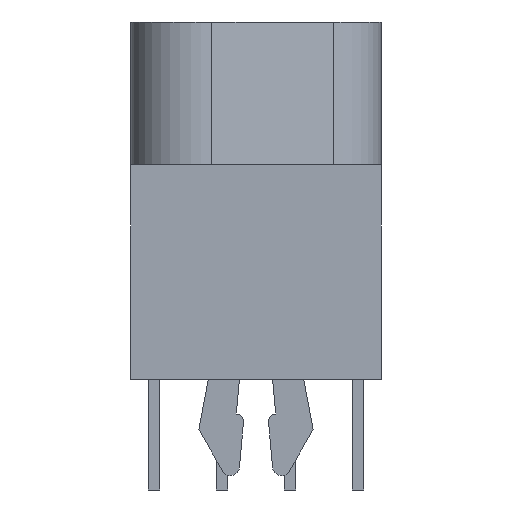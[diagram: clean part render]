
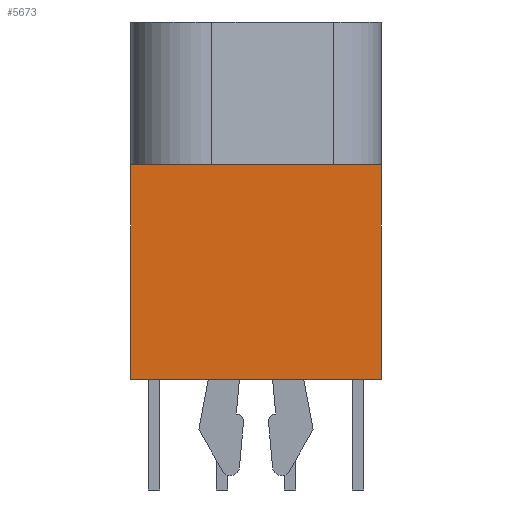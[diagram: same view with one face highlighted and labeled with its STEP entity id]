
A CAD part, left-side view. The second image highlights one B-rep face of the part: STEP entity #5673.
In plain terms, the highlighted planar face has unit normal (-1, 0, 0).
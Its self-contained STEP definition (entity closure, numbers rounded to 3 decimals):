
#169=DIRECTION('',(0.,1.,0.));
#170=VECTOR('',#169,7.);
#171=CARTESIAN_POINT('',(-27.265,-3.5,-4.));
#172=LINE('',#171,#170);
#255=DIRECTION('',(0.,0.,-1.));
#256=VECTOR('',#255,6.);
#257=CARTESIAN_POINT('',(-27.265,3.5,-4.));
#258=LINE('',#257,#256);
#263=DIRECTION('',(0.,0.,-1.));
#264=VECTOR('',#263,6.);
#265=CARTESIAN_POINT('',(-27.265,-3.5,-4.));
#266=LINE('',#265,#264);
#275=DIRECTION('',(0.,1.,0.));
#276=VECTOR('',#275,7.);
#277=CARTESIAN_POINT('',(-27.265,-3.5,-10.));
#278=LINE('',#277,#276);
#4108=CARTESIAN_POINT('',(-27.265,-3.5,-4.));
#4109=CARTESIAN_POINT('',(-27.265,3.5,-4.));
#4110=VERTEX_POINT('',#4108);
#4111=VERTEX_POINT('',#4109);
#4116=CARTESIAN_POINT('',(-27.265,-3.5,-10.));
#4117=VERTEX_POINT('',#4116);
#4118=CARTESIAN_POINT('',(-27.265,3.5,-10.));
#4119=VERTEX_POINT('',#4118);
#5661=CARTESIAN_POINT('',(-27.265,-3.5,-4.));
#5662=DIRECTION('',(-1.,0.,0.));
#5663=DIRECTION('',(0.,1.,0.));
#5664=AXIS2_PLACEMENT_3D('',#5661,#5662,#5663);
#5665=PLANE('',#5664);
#5666=ORIENTED_EDGE('',*,*,#5536,.F.);
#5667=ORIENTED_EDGE('',*,*,#5594,.T.);
#5669=ORIENTED_EDGE('',*,*,#5668,.T.);
#5670=ORIENTED_EDGE('',*,*,#5649,.F.);
#5671=EDGE_LOOP('',(#5666,#5667,#5669,#5670));
#5672=FACE_OUTER_BOUND('',#5671,.F.);
#5673=ADVANCED_FACE('',(#5672),#5665,.T.);
#5536=EDGE_CURVE('',#4110,#4111,#172,.T.);
#5594=EDGE_CURVE('',#4110,#4117,#266,.T.);
#5649=EDGE_CURVE('',#4111,#4119,#258,.T.);
#5668=EDGE_CURVE('',#4117,#4119,#278,.T.);
